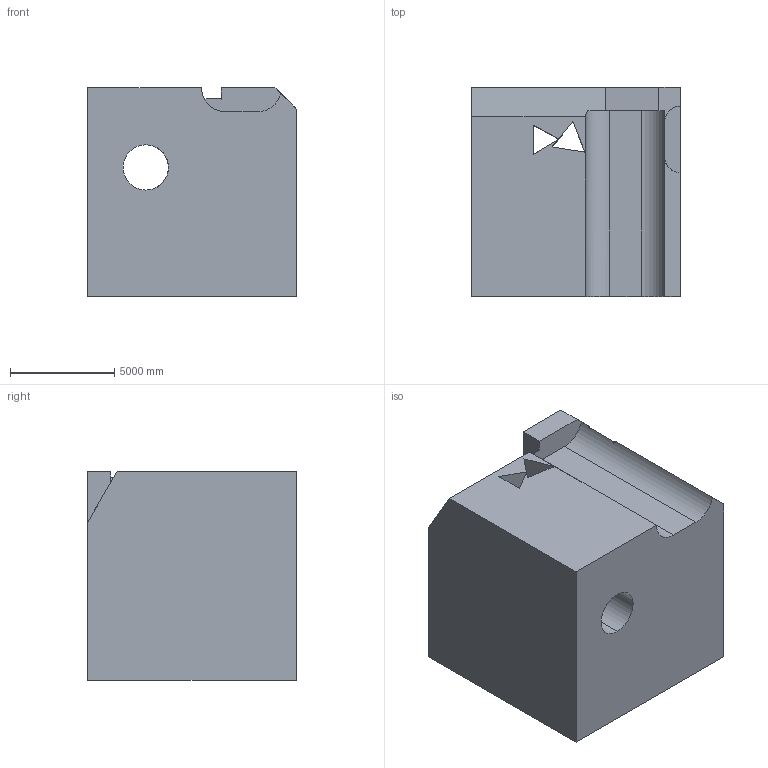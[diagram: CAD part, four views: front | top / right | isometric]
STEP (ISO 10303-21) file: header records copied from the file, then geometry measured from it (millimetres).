
FILE_DESCRIPTION (( 'STEP AP203' ), '1' );
FILE_NAME ('699.STEP', '2022-07-29T12:36:08', ( 'user' ), ( '' ), 'SwSTEP 2.0', 'SolidWorks 2021', '' );
FILE_SCHEMA (( 'CONFIG_CONTROL_DESIGN' ));
Length unit declared in the file: centimetre
Products named in the file (1): 699
Bounding box: 10000 x 10000 x 10000 mm (x, y, z)
Volume: 882399596075 mm3; surface area: 736520204.4 mm2
Topology: 1 solids, 1 shells, 29 faces, 87 edges, 58 vertices
Faces by surface type: plane 23, cylinder 6
Entity records: 1104 total; most frequent: CARTESIAN_POINT 240, ORIENTED_EDGE 174, DIRECTION 148, EDGE_CURVE 87, VECTOR 68, LINE 68, VERTEX_POINT 58, AXIS2_PLACEMENT_3D 40
